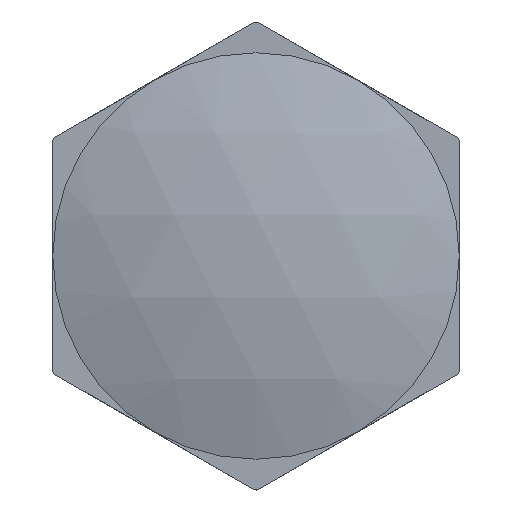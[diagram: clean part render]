
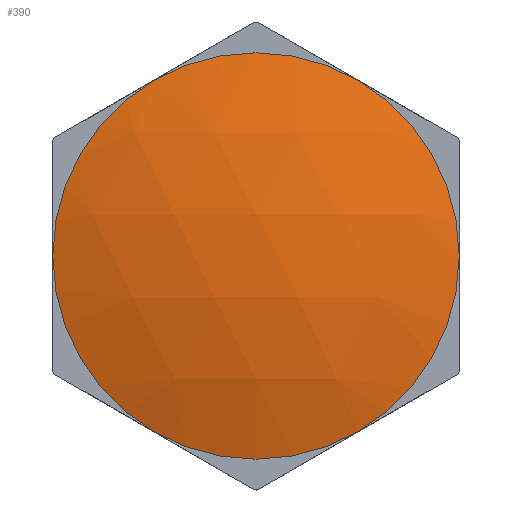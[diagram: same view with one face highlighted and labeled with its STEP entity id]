
A CAD part, left-side view. The second image highlights one B-rep face of the part: STEP entity #390.
In plain terms, the highlighted spherical face has radius 55.5 mm.
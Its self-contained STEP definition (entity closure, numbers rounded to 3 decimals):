
#16=SPHERICAL_SURFACE('',#438,55.5);
#58=FACE_OUTER_BOUND('',#86,.T.);
#86=EDGE_LOOP('',(#353,#354,#355,#356,#357,#358));
#156=CIRCLE('',#408,18.);
#159=CIRCLE('',#415,18.);
#161=CIRCLE('',#419,18.);
#163=CIRCLE('',#424,18.);
#164=CIRCLE('',#426,18.);
#165=CIRCLE('',#428,18.);
#175=VERTEX_POINT('',#578);
#188=VERTEX_POINT('',#610);
#190=VERTEX_POINT('',#616);
#192=VERTEX_POINT('',#624);
#195=VERTEX_POINT('',#634);
#198=VERTEX_POINT('',#645);
#229=EDGE_CURVE('',#188,#190,#156,.T.);
#237=EDGE_CURVE('',#195,#192,#159,.T.);
#243=EDGE_CURVE('',#198,#195,#161,.T.);
#248=EDGE_CURVE('',#175,#198,#163,.T.);
#249=EDGE_CURVE('',#190,#175,#164,.T.);
#251=EDGE_CURVE('',#192,#188,#165,.T.);
#353=ORIENTED_EDGE('',*,*,#251,.T.);
#354=ORIENTED_EDGE('',*,*,#229,.T.);
#355=ORIENTED_EDGE('',*,*,#249,.T.);
#356=ORIENTED_EDGE('',*,*,#248,.T.);
#357=ORIENTED_EDGE('',*,*,#243,.T.);
#358=ORIENTED_EDGE('',*,*,#237,.T.);
#390=ADVANCED_FACE('',(#58),#16,.T.);
#408=AXIS2_PLACEMENT_3D('',#618,#488,#489);
#415=AXIS2_PLACEMENT_3D('',#635,#507,#508);
#419=AXIS2_PLACEMENT_3D('',#646,#519,#520);
#424=AXIS2_PLACEMENT_3D('',#655,#532,#533);
#426=AXIS2_PLACEMENT_3D('',#657,#536,#537);
#428=AXIS2_PLACEMENT_3D('',#660,#541,#542);
#438=AXIS2_PLACEMENT_3D('',#673,#561,#562);
#488=DIRECTION('center_axis',(-1.,0.,0.));
#489=DIRECTION('ref_axis',(0.,0.,1.));
#507=DIRECTION('center_axis',(-1.,0.,0.));
#508=DIRECTION('ref_axis',(0.,0.,1.));
#519=DIRECTION('center_axis',(-1.,0.,0.));
#520=DIRECTION('ref_axis',(0.,0.,1.));
#532=DIRECTION('center_axis',(-1.,0.,0.));
#533=DIRECTION('ref_axis',(0.,0.,1.));
#536=DIRECTION('center_axis',(-1.,0.,0.));
#537=DIRECTION('ref_axis',(0.,0.,1.));
#541=DIRECTION('center_axis',(-1.,0.,0.));
#542=DIRECTION('ref_axis',(0.,0.,1.));
#561=DIRECTION('center_axis',(0.,0.,1.));
#562=DIRECTION('ref_axis',(1.,0.,0.));
#578=CARTESIAN_POINT('',(3.,18.,0.));
#610=CARTESIAN_POINT('',(3.,-9.,15.588));
#616=CARTESIAN_POINT('',(3.,9.,15.588));
#618=CARTESIAN_POINT('Origin',(3.,0.,0.));
#624=CARTESIAN_POINT('',(3.,-18.,0.));
#634=CARTESIAN_POINT('',(3.,-9.,-15.588));
#635=CARTESIAN_POINT('Origin',(3.,0.,0.));
#645=CARTESIAN_POINT('',(3.,9.,-15.588));
#646=CARTESIAN_POINT('Origin',(3.,0.,0.));
#655=CARTESIAN_POINT('Origin',(3.,0.,0.));
#657=CARTESIAN_POINT('Origin',(3.,0.,0.));
#660=CARTESIAN_POINT('Origin',(3.,0.,0.));
#673=CARTESIAN_POINT('Origin',(55.5,0.,0.));
